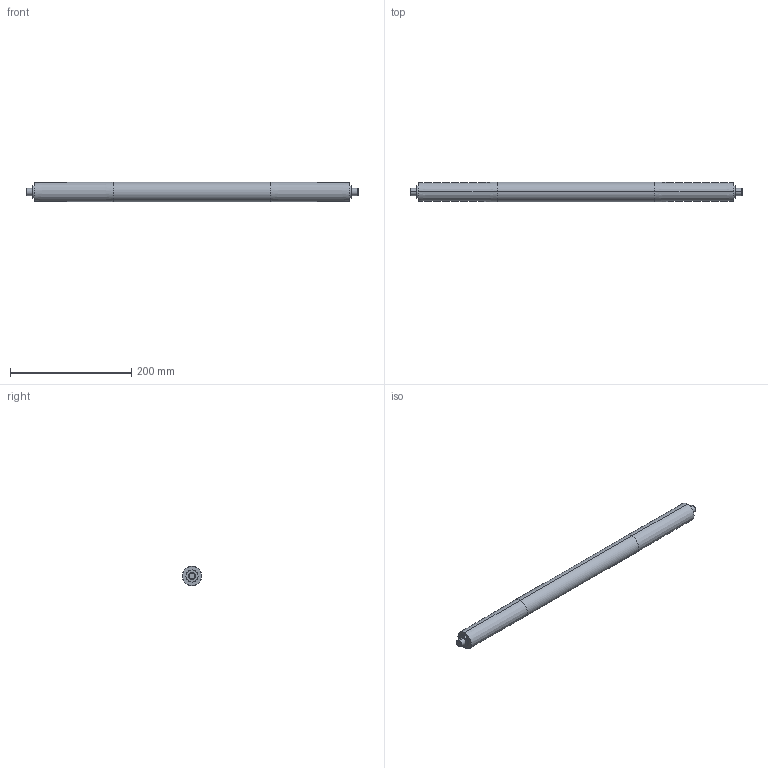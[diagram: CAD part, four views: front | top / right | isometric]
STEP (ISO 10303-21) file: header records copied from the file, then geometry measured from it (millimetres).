
FILE_DESCRIPTION (( 'STEP AP214' ), '1' );
FILE_NAME ('084.030.117.STEP', '2021-02-05T15:37:01', ( '' ), ( '' ), 'SwSTEP 2.0', 'SolidWorks 2018', '' );
FILE_SCHEMA (( 'AUTOMOTIVE_DESIGN' ));
Length unit declared in the file: millimetre
Products named in the file (1): 084.030.117
Bounding box: 548 x 32 x 32 mm (x, y, z)
Volume: 416079.9 mm3; surface area: 54537 mm2
Topology: 1 solids, 1 shells, 24 faces, 46 edges, 28 vertices
Faces by surface type: cylinder 10, cone 8, plane 6
Entity records: 648 total; most frequent: DIRECTION 124, CARTESIAN_POINT 99, ORIENTED_EDGE 92, AXIS2_PLACEMENT_3D 53, EDGE_CURVE 46, EDGE_LOOP 28, VERTEX_POINT 28, CIRCLE 28
